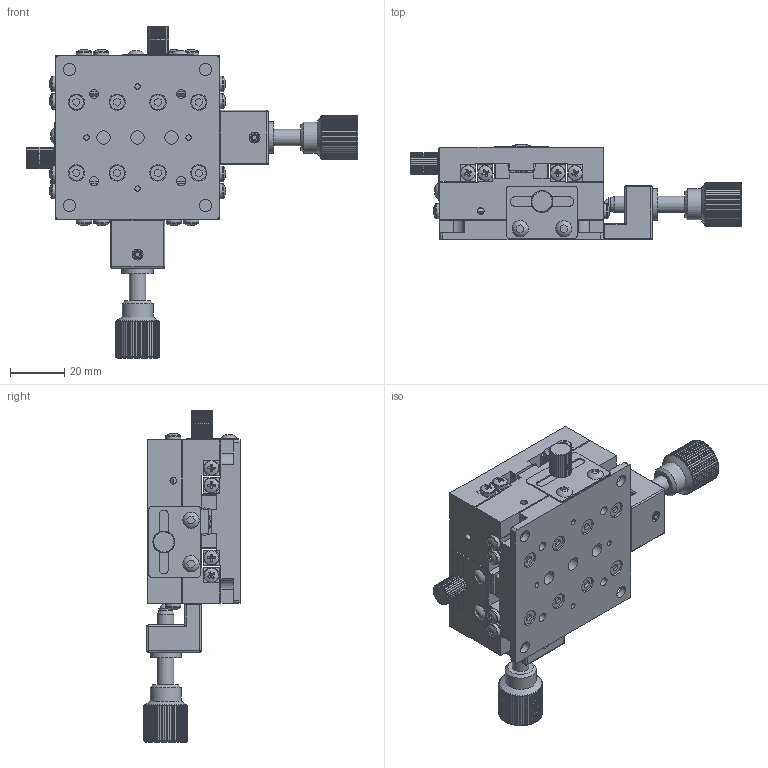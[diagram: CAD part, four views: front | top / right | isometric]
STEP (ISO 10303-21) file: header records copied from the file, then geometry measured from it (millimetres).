
FILE_DESCRIPTION (( 'STEP AP203' ), '1' );
FILE_NAME ('TCJ60XY-05A.step', '2017-01-10T09:13:55', ( '¦K¬P' ), ( '' ), 'SwSTEP 2.0', 'SolidWorks 2012', '' );
FILE_SCHEMA (( 'CONFIG_CONTROL_DESIGN' ));
Length unit declared in the file: millimetre
Products named in the file (1): TCJ60XY-05A
Bounding box: 122 x 35.3 x 122 mm (x, y, z)
Surface area: 50015.4 mm2 (no closed solid volume)
Topology: 0 solids, 69 shells, 1296 faces, 3728 edges, 2459 vertices
Faces by surface type: plane 888, cylinder 331, sphere 36, torus 22, cone 19
Full cylindrical faces by diameter (mm): 1.7 x4, 2 x8, 2.5 x19, 3 x2, 3.3 x12, 4 x2, 4.5 x4, 5 x13, 5.4 x5, 5.6 x16, 6 x18, 10 x1, 11.4 x2, 11.5 x2, 15 x1
Entity records: 42538 total; most frequent: CARTESIAN_POINT 9869, DIRECTION 6556, ORIENTED_EDGE 6313, EDGE_CURVE 3526, VERTEX_POINT 2429, AXIS2_PLACEMENT_3D 2334, VECTOR 1888, LINE 1888
